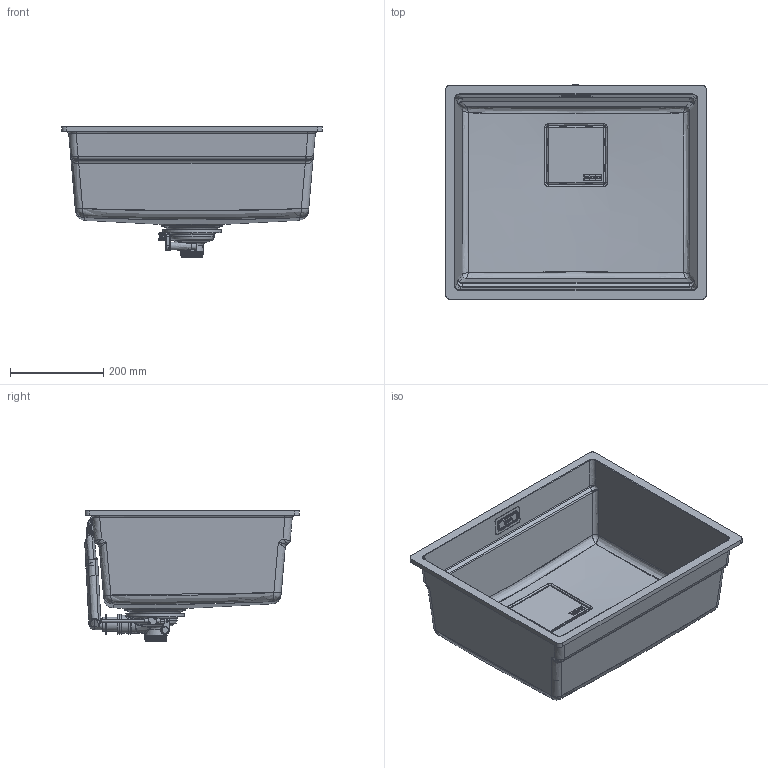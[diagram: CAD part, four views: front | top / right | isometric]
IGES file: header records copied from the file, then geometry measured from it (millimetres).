
Global section: file name: F:\_CONVERSIONE_CAD_2024_2025\_2024_GLB\Novelties_2024\Sinks\KUBUS-2\Caricati\125.0706.704 3D001_Sinks_Kubus-2_KNG-110-52\3D001_Sinks_Kubus-2_KNG-110-52.igs; native system: Rhinoceros ( Jul 12 2024 ); preprocessor: Trout Lake IGES 012 Jul 12 2024; date: 241118.081208; units: millimetre
Bounding box: 560 x 461.07 x 280.16 mm (x, y, z)
Surface area: 1264892.2 mm2 (no closed solid volume)
Topology: 0 solids, 0 shells, 2561 faces, 15490 edges, 15426 vertices
Faces by surface type: bspline 2561
